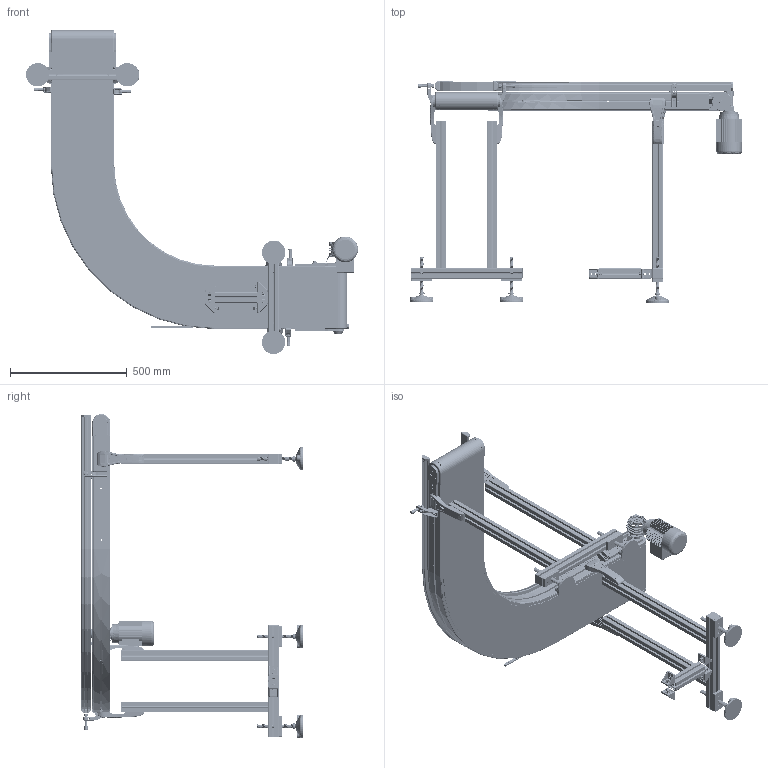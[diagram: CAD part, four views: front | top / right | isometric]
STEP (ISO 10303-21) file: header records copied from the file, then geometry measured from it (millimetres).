
FILE_DESCRIPTION (( 'STEP AP203' ), '1' );
FILE_NAME ('NASTRO_3020.step', '2026-06-02T15:15:04', ( 'Utente Windows' ), ( '' ), 'SwSTEP 2.0', 'SolidWorks 2024', '' );
FILE_SCHEMA (( 'CONFIG_CONTROL_DESIGN' ));
Length unit declared in the file: millimetre
Products named in the file (56): FLANGIA_GAMBA; RONDELLE FASCIA LARGA UNI 6593_6.4x24 UNI 6593; SPONDA_L_DX_Default<A macchina>; 2010.000.070; CH03P_DX; NASTRO_3020; 084.802.077_chiuso; 084.711.006_L2; 084.807.014_084.807.002; 084.711.010; 084.808.012; 3020.009.200; 084.201.012-1; 084.405.001; VITI TE UNI 5739_M6x16 UNI 5739; 2010.000.068; 084.802.076_chiuso; 084.807.003_084.807.003<A macchina>; VITI TE UNI 5739_M8x16 UNI 5739; 3020.009.002; 084.402.005; DADI ESAGONALI NORMALI UNI 5588_M6 UNI 5588; TRAVERSA_SINGOLA_Default<A macchina>; 084.307.006; 084.302.000 DADI ALUSIC 13x13-1_084.302.009; ANGOLARE_43; CURVA_3020_9_SX_Default<A macchina>; 3020.000.005; 084.302.000 DADI ALUSIC 13x13-1_084.302.004; 084.301.000 VITI ALUSIC_084.301.003; CATENA_3020_LDX; 3020.000.007; 084.302.000 DADI ALUSIC 13x13_084.302.004; CHIAVETTE_A 5x5x30 UNI 6604-69; 084.802.078_chiuso con cono; 3020.009.007; 084.301.000 VITI ALUSIC1_084.301.003; TELAIO_3020_9_7_Default<A macchina>; 084.711.006_PER CAVA 8 PERNO ALTO 1; GAMBE_3020_Default<A macchina>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
Assembly tree (131 placements, depth 4):
  NASTRO_3020
    CATENA_3020_LDX
    3020.009.130_DX
      084.807.003_084.807.003<A macchina>  x2
      084.802.017_084.802.017  x2
      084.301.000 VITI ALUSIC_084.301.003  x4
      084.302.000 DADI ALUSIC 13x13_084.302.004  x4
      3020.009.007
      VITI TSEI UNI 5933 INOX_0410UNI5933A2  x4
      CHIAVETTE_A 5x5x50 UNI 6604-69
      CHIAVETTE_A 5x5x30 UNI 6604-69  x3
      3020.000.005  x3
      RONDELLE FASCIA LARGA UNI 6593_6.4x24 UNI 6593
      VITI TE UNI 5739_M6x16 UNI 5739
      084.802.077_chiuso
      084.802.078_chiuso con cono
      084.808.012
      VITI TE UNI 5739_M8x16 UNI 5739
      084.802.062
      RONDELLE UNI 6592_8.4x17 UNI 6592
    CURVA_3020_9_SX_Default<A macchina>
    3020.009.200
      084.802.008  x2
      084.301.000 VITI ALUSIC_084.301.003  x6
      084.302.000 DADI ALUSIC 13x13_084.302.004  x6
      3020.000.007
      3020.009.002
      084.807.014_084.807.002  x2
      084.802.076_chiuso  x2
      VITI TSEI UNI 5933 INOX_0410UNI5933A2  x4
    084.307.006
    TELAIO_3020_9_1_Default<A macchina>
    TELAIO_3020_9_7_Default<A macchina>
    084.712.002  x4
    084.711.006_PER CAVA 8 PERNO ALTO 1  x8
      084.711.006_L1
      084.711.006_L2
      084.711.007
      084.711.005
      084.711.010
      DADI ESAGONALI NORMALI UNI 5588_M6 UNI 5588
    SPONDA_L_DX_Default<A macchina>
    GAMBE_3020_Default<A macchina>  x2
    FLANGIA_GAMBA  x4
      084.302.000 DADI ALUSIC 13x13-1_084.302.004
      RONDELLE UNI 6592_8.4x17 UNI 6592
      084.301.000 VITI ALUSIC_084.301.003
      2010.000.068
        2010.000.068_L
        2010.000.069
        2010.000.070
    PIEDE  x4
      084.405.001
      084.402.005
      084.301.000 VITI ALUSIC1_084.301.003
    084.201.012-1  x8
    ANGOLARE_43  x4
      084.305.003-1
      084.302.000 DADI ALUSIC 13x13-1_084.302.009
      084.301.000 VITI ALUSIC_084.301.003
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Bounding box: 1420.61 x 946.15 x 1385.64 mm (x, y, z)
Volume: 24415704.7 mm3; surface area: 8345590.9 mm2
Topology: 287 solids, 291 shells, 14919 faces, 38586 edges, 24403 vertices
Faces by surface type: plane 6132, cylinder 5086, cone 1303, bspline 1284, torus 954, sphere 160
Entity records: 217799 total; most frequent: CARTESIAN_POINT 69740, ORIENTED_EDGE 30396, DIRECTION 28249, EDGE_CURVE 15198, AXIS2_PLACEMENT_3D 9771, VERTEX_POINT 9733, LINE 8707, VECTOR 8707
